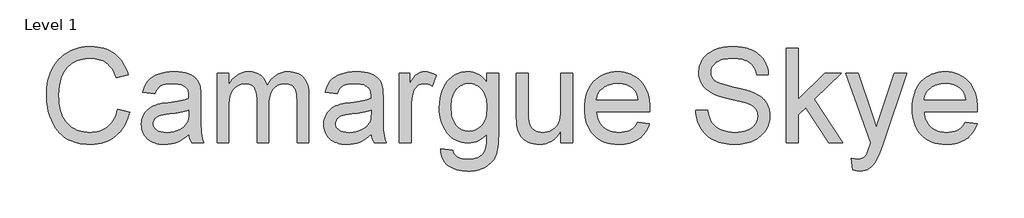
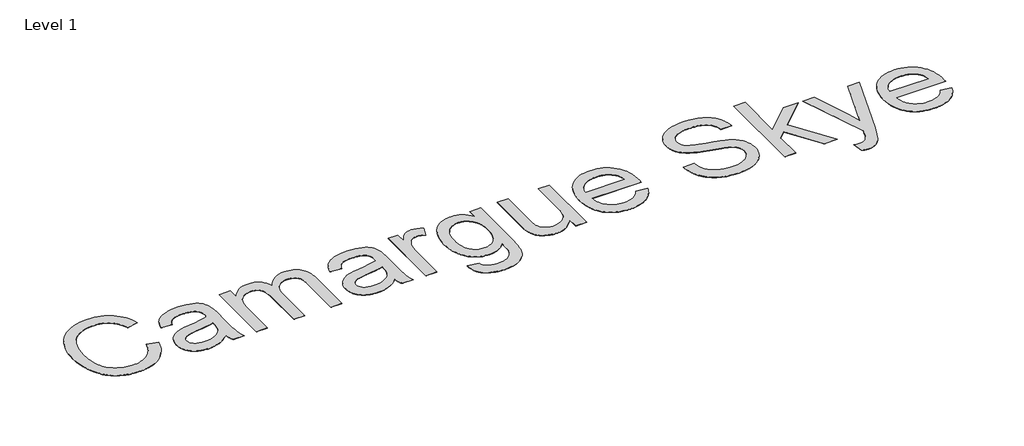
# One storey, part 52 of 69: 1 proxy.
"""IFC4 building model written with IfcOpenShell, lengths in millimetres."""

import ifcopenshell
import ifcopenshell.guid

model = None  # the IFC model being written
_history = None  # IfcOwnerHistory: only IFC2X3 demands one
_inside = {}  # id of a spatial element -> (the spatial element, [elements in it])
_under = {}  # id of a project, library or spatial element -> (it, [spatial elements below it])
_declared = {}  # id of a project -> (the project, [libraries it declares])
_typed = {}  # id of a type object -> (the type object, [elements of that type])
_made_of = {}  # id of a material, layer set ... -> (it, [elements and type objects made of it])


def new_model(schema):
    """Start an empty IFC model of exactly this schema.

    Asked for "IFC4X3", IfcOpenShell would pick the latest addendum, in which some entities
    have other attributes; the version numbers below select the first issue.
    IFC2X3 requires an IfcOwnerHistory on every rooted entity: one is made here for all.
    """
    global model, _history
    if schema == "IFC4X3":
        model = ifcopenshell.file(schema_version=(4, 3, 0, 0))
    else:
        model = ifcopenshell.file(schema=schema)
    _inside.clear()
    _under.clear()
    _declared.clear()
    _typed.clear()
    _made_of.clear()
    _history = None
    if model.schema == "IFC2X3":
        org = make("IfcOrganization", Name="unknown")
        user = make(
            "IfcPersonAndOrganization",
            ThePerson=make("IfcPerson", FamilyName="unknown"),
            TheOrganization=org,
        )
        app = make(
            "IfcApplication",
            ApplicationDeveloper=org,
            Version="unknown",
            ApplicationFullName="unknown",
            ApplicationIdentifier="unknown",
        )
        _history = make(
            "IfcOwnerHistory",
            OwningUser=user,
            OwningApplication=app,
            ChangeAction="ADDED",
            CreationDate=0,
        )
    return model


def make(cls, **values):
    """One entity of the class cls with the attributes given. An attribute that is None is left unset."""
    return model.create_entity(
        cls, **{name: value for name, value in values.items() if value is not None}
    )


def rooted(cls, **values):
    """An entity with a GlobalId (a new one), such as an element, a storey or a relation."""
    return make(cls, GlobalId=ifcopenshell.guid.new(), OwnerHistory=_history, **values)


def si_unit(unit_type, name, prefix=None):
    """IfcSIUnit, for example si_unit("LENGTHUNIT", "METRE", prefix="MILLI")."""
    return make("IfcSIUnit", UnitType=unit_type, Prefix=prefix, Name=name)


def assignment(units):
    """IfcUnitAssignment: the units of a project."""
    return None if units is None else make("IfcUnitAssignment", Units=units)


def point(xyz):
    """IfcCartesianPoint."""
    return None if xyz is None else make("IfcCartesianPoint", Coordinates=xyz)


def direction(xyz):
    """IfcDirection."""
    return None if xyz is None else make("IfcDirection", DirectionRatios=xyz)


def frame(location, z_axis=None, x_axis=None):
    """IfcAxis2Placement3D, a coordinate frame: its origin and axes. An axis left out is left unset."""
    return make(
        "IfcAxis2Placement3D",
        Location=point(location),
        Axis=direction(z_axis),
        RefDirection=direction(x_axis),
    )


def origin():
    """The frame at (0, 0, 0) with its axes left unset."""
    return frame((0.0, 0.0, 0.0))


def origin_with_axes():
    """The frame at (0, 0, 0) with the z axis (0, 0, 1) and the x axis (1, 0, 0) written out."""
    return frame((0.0, 0.0, 0.0), z_axis=(0.0, 0.0, 1.0), x_axis=(1.0, 0.0, 0.0))


def place(relative_to, where):
    """IfcLocalPlacement: puts the frame where relative to a parent placement (None: the world)."""
    return make(
        "IfcLocalPlacement", PlacementRelTo=relative_to, RelativePlacement=where
    )


def context(
    kind, dimensions, precision=None, world=None, true_north=None, identifier=None
):
    """IfcGeometricRepresentationContext, for example the 3D "Model" context."""
    return make(
        "IfcGeometricRepresentationContext",
        ContextIdentifier=identifier,
        ContextType=kind,
        CoordinateSpaceDimension=dimensions,
        Precision=precision,
        WorldCoordinateSystem=world,
        TrueNorth=true_north,
    )


def project(units=None, contexts=None):
    """IfcProject with its units and contexts."""
    return rooted(
        "IfcProject",
        Name="project",
        RepresentationContexts=contexts,
        UnitsInContext=assignment(units),
    )


def spatial(cls, under=None, at=None, **own):
    """A site, building, storey or space (cls), placed at a placement, below another one or the project."""
    s = rooted(cls, ObjectPlacement=at, **own)
    if under is not None:
        _under.setdefault(under.id(), (under, []))[1].append(s)
    return s


def polyline(points):
    """IfcPolyline through the points."""
    return make("IfcPolyline", Points=[point(p) for p in points])


def outline(outer, holes=None, kind="AREA"):
    """IfcArbitraryClosedProfileDef: a profile drawn as a closed curve; with holes, ...WithVoids."""
    if holes is None:
        return make("IfcArbitraryClosedProfileDef", ProfileType=kind, OuterCurve=outer)
    return make(
        "IfcArbitraryProfileDefWithVoids",
        ProfileType=kind,
        OuterCurve=outer,
        InnerCurves=holes,
    )


def extrude(swept, where, along, depth):
    """IfcExtrudedAreaSolid: the profile swept, set in the frame where, extruded along a direction by depth."""
    return make(
        "IfcExtrudedAreaSolid",
        SweptArea=swept,
        Position=where,
        ExtrudedDirection=direction(along),
        Depth=depth,
    )


def shape(context_of_items, identifier, shape_type, items):
    """IfcShapeRepresentation: the items that make up one representation, for example the "Body"."""
    return make(
        "IfcShapeRepresentation",
        ContextOfItems=context_of_items,
        RepresentationIdentifier=identifier,
        RepresentationType=shape_type,
        Items=items,
    )


def made_of(thing, what):
    """Note that an element or type object is made of a material, layer set ...; save() writes the relation."""
    if what is not None:
        _made_of.setdefault(what.id(), (what, []))[1].append(thing)
    return thing


def element(
    cls,
    number,
    at=None,
    inside=None,
    cuts=None,
    type_object=None,
    material=None,
    context=None,
    identifier="Body",
    shape_type=None,
    held_by="IfcProductDefinitionShape",
    body=None,
    shapes=None,
    **own,
):
    """One element of the class cls, such as IfcWall. Its Tag is "e" and its number.

    at: its placement. inside: the storey or other place that contains it. cuts: it is an
    opening in that element (IfcRelVoidsElement). A single representation is given by context,
    identifier, shape_type and body (its items); several are given by shapes. held_by: the class
    of the entity that holds the representations. save() writes the other relations.
    """
    e = rooted(cls, Tag="e%d" % number, ObjectPlacement=at, **own)
    if body is not None:
        shapes = [shape(context, identifier, shape_type, body)]
    if shapes is not None:
        e.Representation = make(held_by, Representations=shapes)
    if inside is not None:
        _inside.setdefault(inside.id(), (inside, []))[1].append(e)
    if cuts is not None:
        rooted(
            "IfcRelVoidsElement", RelatingBuildingElement=cuts, RelatedOpeningElement=e
        )
    if type_object is not None:
        _typed.setdefault(type_object.id(), (type_object, []))[1].append(e)
    return made_of(e, material)


def aggregate(whole, parts):
    """IfcRelAggregates: a whole, such as a stair, and the parts it consists of."""
    return rooted("IfcRelAggregates", RelatingObject=whole, RelatedObjects=parts)


def save(model, path):
    """Write the relations noted so far, then the file.

    IfcRelAggregates (storeys below a building ...), IfcRelContainedInSpatialStructure (elements
    in a storey), IfcRelDefinesByType, IfcRelAssociatesMaterial and IfcRelDeclares: one each for
    every whole, place, type object, material and project.
    """
    for whole, parts in _under.values():
        aggregate(whole, parts)
    for where, things in _inside.values():
        rooted(
            "IfcRelContainedInSpatialStructure",
            RelatedElements=things,
            RelatingStructure=where,
        )
    for kind, things in _typed.values():
        rooted("IfcRelDefinesByType", RelatedObjects=things, RelatingType=kind)
    for what, things in _made_of.values():
        rooted("IfcRelAssociatesMaterial", RelatedObjects=things, RelatingMaterial=what)
    for by, libraries in _declared.values():
        rooted("IfcRelDeclares", RelatingContext=by, RelatedDefinitions=libraries)
    model.write(path)


model = new_model("IFC4")

# Units and contexts
model_context = context("Model", 3, world=origin())
ifc_project = project(units=[si_unit("LENGTHUNIT", "METRE", prefix="MILLI")], contexts=[model_context])

# Site, building, storey
site = spatial("IfcSite", under=ifc_project)
building = spatial("IfcBuilding", under=site)
storey = spatial("IfcBuildingStorey", under=building, Name="Level 1", Elevation=0.0)

# Proxy
placement = place(None, origin())
element("IfcBuildingElementProxy", 1, Name="2500 mm Arial", ObjectType="2500 mm Arial", at=placement, inside=storey, context=model_context, shape_type="SweptSolid", body=[
    extrude(outline(polyline([(84350.8598533, 78001.5614402), (84664.7858225, 77920.6274012), (84636.3037086, 77819.9340754), (84602.6674147, 77725.400857), (84563.8769408, 77637.027746), (84519.9322869, 77554.8147423), (84470.8334529, 77478.761846), (84416.5804388, 77408.869057), (84357.1732448, 77345.1363754), (84292.6118707, 77287.5638012), (84223.5956755, 77236.4770632), (84150.8240184, 77192.2018903), (84074.2968992, 77154.7382824), (83994.0143179, 77124.0862396), (83909.9762747, 77100.2457619), (83822.1827693, 77083.2168492), (83730.633802, 77072.9995016), (83635.3293726, 77069.593719), (83537.2706184, 77072.1708091), (83443.8966115, 77079.9020791), (83355.2073519, 77092.7875292), (83271.2028395, 77110.8271593), (83191.8830744, 77134.0209695), (83117.2480566, 77162.3689597), (83047.2977861, 77195.8711299), (82982.0322629, 77234.5274802), (82920.9868443, 77278.0697632), (82863.6968877, 77326.2297317), (82810.1623932, 77379.0073857), (82760.3833608, 77436.4027251), (82714.3597903, 77498.4157499), (82672.0916819, 77565.0464603), (82633.5790356, 77636.294856), (82598.8218512, 77712.1609373), (82567.9973637, 77791.0543808), (82541.2828079, 77871.3848633), (82518.6781838, 77953.1523849), (82500.1834913, 78036.3569455), (82485.7987304, 78120.9985452), (82475.5239013, 78207.0771839), (82469.3590038, 78294.5928617), (82467.3040379, 78383.5455785), (82469.6272511, 78479.7792931), (82476.5968904, 78572.8898429), (82488.212956, 78662.8772278), (82504.4754479, 78749.7414479), (82525.384366, 78833.4825031), (82550.9397103, 78914.1003934), (82581.1414809, 78991.5951189), (82615.9896777, 79065.9666795), (82655.1202508, 79136.5875683), (82698.1691504, 79202.8302781), (82745.1363765, 79264.6948089), (82796.0219291, 79322.1811608), (82850.825808, 79375.2893337), (82909.5480135, 79424.0193277), (82972.1885454, 79468.3711427), (83038.7474038, 79508.3447787), (83108.1276488, 79543.7677912), (83179.2323407, 79574.4677353), (83252.0614794, 79600.4446111), (83326.615065, 79621.6984185), (83402.8930975, 79638.2291576), (83480.8955767, 79650.0368284), (83560.6225029, 79657.1214309), (83642.0738759, 79659.4829651), (83733.7138557, 79656.4268621), (83821.6271143, 79647.258553), (83905.8136516, 79631.9780378), (83986.2734676, 79610.5853166), (84063.0065624, 79583.0803893), (84136.012936, 79549.4632559), (84205.2925883, 79509.7339165), (84270.8455193, 79463.892371), (84332.116074, 79412.5038548), (84388.5485972, 79356.1336032), (84440.143089, 79294.7816163), (84486.8995494, 79228.4478941), (84528.8179783, 79157.1324365), (84565.8983757, 79080.8352435), (84598.1407418, 78999.5563152), (84625.5450763, 78913.2956515), (84311.6191071, 78838.4929792), (84288.1474694, 78902.4651673), (84262.184964, 78961.9442133), (84233.7315909, 79016.9301172), (84202.7873502, 79067.4228791), (84169.3522418, 79113.4224989), (84133.4262657, 79154.9289766), (84095.0094219, 79191.9423122), (84054.1017105, 79224.4625058), (84010.5881682, 79252.8440269), (83964.3538321, 79277.4413452), (83915.398702, 79298.2544607), (83863.722778, 79315.2833734), (83809.32606, 79328.5280832), (83752.2085482, 79337.9885902), (83692.3702424, 79343.6648945), (83629.8111427, 79345.5569959), (83557.8921287, 79343.4589189), (83488.9813164, 79337.1646879), (83423.0787059, 79326.6743028), (83360.1842971, 79311.9877638), (83300.29809, 79293.1050708), (83243.4200846, 79270.0262237), (83189.550281, 79242.7512227), (83138.6886791, 79211.2800676), (83091.165798, 79176.2737965), (83047.3121565, 79138.3934473), (83007.1277547, 79097.6390201), (82970.6125926, 79054.0105147), (82937.7666702, 79007.5079312), (82908.5899875, 78958.1312697), (82883.0825444, 78905.8805301), (82861.2443411, 78850.7557124), (82826.23807, 78736.7506149), (82801.2335907, 78620.9827495), (82786.230903, 78503.4521163), (82781.2300072, 78384.1587151), (82787.150608, 78234.2468021), (82794.5513591, 78162.9696655), (82804.9124106, 78094.1450756), (82818.2337625, 78027.7730323), (82834.5154149, 77963.8535357), (82853.7573677, 77902.3865856), (82875.9596209, 77843.3721822), (82901.2898291, 77787.4090917), (82929.9156469, 77735.0960804), (82961.8370742, 77686.4331483), (82997.054111, 77641.4202953), (83035.5667574, 77600.0575215), (83077.3750133, 77562.3448269), (83122.4788787, 77528.2822114), (83170.8783537, 77497.8696751), (83221.4381774, 77471.0688969), (83273.0230889, 77447.8415559), (83325.6330883, 77428.1876519), (83379.2681756, 77412.107185), (83433.9283507, 77399.6001552), (83489.6136136, 77390.6665624), (83546.3239644, 77385.3064068), (83604.059403, 77383.5196883), (83673.6647842, 77385.9530744), (83740.5397911, 77393.2532327), (83804.6844239, 77405.4201633), (83866.0986825, 77422.4538661), (83924.7825669, 77444.3543411), (83980.7360772, 77471.1215884), (84033.9592132, 77502.7556078), (84084.4519751, 77539.2563996), (84131.6012261, 77580.5473214), (84174.7938296, 77626.5517313), (84214.0297856, 77677.2696293), (84249.3090942, 77732.7010154), (84280.6317552, 77792.8458895), (84307.9977687, 77857.7042516), (84331.4071347, 77927.2761019), (84350.8598533, 78001.5614402)])), origin_with_axes(), (0.0, 0.0, 1.0), 5.0),
    extrude(outline(polyline([(86234.4156686, 77344.2789421), (86159.9770461, 77274.4196841), (86084.4271134, 77215.673528), (86007.7658706, 77168.0404738), (85929.9933175, 77131.5205216), (85850.2280704, 77104.4275455), (85767.5887451, 77085.0754197), (85682.0753417, 77073.4641442), (85593.6878603, 77069.593719), (85521.649093, 77071.9217223), (85453.9118626, 77078.9057321), (85390.4761691, 77090.5457483), (85331.3420125, 77106.8417711), (85276.5093927, 77127.7938003), (85225.9783098, 77153.4018361), (85179.7487638, 77183.6658783), (85137.8207546, 77218.5859271), (85100.5295914, 77257.1273142), (85068.2105833, 77298.2553717), (85040.8637303, 77341.9700994), (85018.4890324, 77388.2714974), (85001.0864896, 77437.1595656), (84988.6561019, 77488.6343042), (84981.1978692, 77542.695713), (84978.7117917, 77599.3437921), (84982.4672537, 77665.9074406), (84993.7336398, 77729.4820479), (85012.51095, 77790.067614), (85038.7991842, 77847.6641388), (85071.1996245, 77901.0070281), (85108.3135529, 77948.8316875), (85150.1409693, 77991.138117), (85196.6818738, 78027.9263165), (85247.0932035, 78059.8860648), (85300.5318954, 78087.7071407), (85356.9979495, 78111.3895441), (85416.4913659, 78130.9332751), (85529.4617953, 78154.998889), (85688.1109057, 78178.1447978), (85860.7855172, 78201.9038434), (86009.0879465, 78227.8088672), (86133.0181936, 78255.8598693), (86232.5762586, 78286.0568498), (86234.4156686, 78355.9544289), (86229.0124018, 78432.0600166), (86222.2583182, 78465.5717671), (86212.8026013, 78496.0561553), (86200.645251, 78523.5131813), (86185.7862673, 78547.9428451), (86168.2256502, 78569.3451466), (86147.9633997, 78587.7200858), (86117.05748, 78608.9882637), (86082.5877035, 78627.4206845), (86044.5540701, 78643.0173482), (86002.9565799, 78655.7782549), (85957.7952329, 78665.7034046), (85909.0700291, 78672.7927972), (85800.9280509, 78678.4643113), (85700.3736389, 78674.6896887), (85613.92137, 78663.3658211), (85541.5712443, 78644.4927083), (85510.6844851, 78632.225185), (85483.3232617, 78618.0703504), (85458.5582889, 78601.5108705), (85435.4602813, 78582.0294112), (85394.2651621, 78534.3005544), (85359.737904, 78474.8837801), (85331.8785071, 78403.7790882), (85017.9525378, 78443.0198344), (85041.845707, 78533.4574915), (85072.4450584, 78614.6980988), (85109.7505919, 78686.7416562), (85153.7623077, 78749.5881637), (85206.3770972, 78804.5022157), (85269.491852, 78852.7484065), (85343.1065721, 78894.3267362), (85427.2212575, 78929.2372047), (85520.1306218, 78956.8666753), (85620.1293787, 78976.6020115), (85727.2175282, 78988.4432133), (85841.3950704, 78992.3902805), (85953.0051028, 78988.9030658), (86053.6169963, 78978.4414215), (86143.2307511, 78961.0053478), (86221.8463671, 78936.5948446), (86290.1153019, 78906.9151982), (86348.6890133, 78873.671695), (86397.5675013, 78836.8643349), (86436.7507659, 78796.4931181), (86468.518909, 78751.5616973), (86495.1520326, 78701.0737256), (86516.6501367, 78645.0292029), (86533.0132213, 78583.4281292), (86539.7194035, 78536.3698907), (86544.5095337, 78474.9029406), (86548.3416378, 78308.7429061), (86548.3416378, 77918.1748546), (86552.3270261, 77577.9606511), (86557.3087614, 77458.4948053), (86564.2831909, 77372.7897967), (86574.1700195, 77304.6741461), (86587.8889523, 77237.9763739), (86605.4399891, 77172.6964803), (86626.8231301, 77108.8344652), (86312.8971609, 77108.8344652), (86284.9994429, 77161.2576495), (86262.6199549, 77217.9727904), (86245.7586967, 77278.979888), (86234.4156686, 77344.2789421)]), holes=[polyline([(86234.4156686, 77972.1308805), (86139.5327706, 77944.9612624), (86023.496658, 77919.8609804), (85886.3073306, 77896.8300347), (85727.9647885, 77875.8684251), (85565.1003636, 77851.8028113), (85504.533958, 77838.7353363), (85457.8780904, 77824.9780825), (85420.4575937, 77809.2281346), (85387.5973009, 77790.1825771), (85359.297212, 77767.8414101), (85335.557327, 77742.2046336), (85316.7800168, 77714.1919525), (85303.3676524, 77684.7230718), (85295.3202338, 77653.7979916), (85292.6377609, 77621.4167118), (85298.4817197, 77572.6340264), (85316.013596, 77528.0666555), (85345.2333899, 77487.7145992), (85386.1411013, 77451.5778574), (85410.8821235, 77435.626724), (85438.3535199, 77421.8024084), (85501.4874352, 77400.5342305), (85575.5428473, 77387.7733238), (85660.5197561, 77383.5196883), (85747.2785933, 77388.2140158), (85829.1323372, 77402.2969984), (85906.0809879, 77425.7686362), (85978.1245453, 77458.6289289), (86043.1170311, 77498.1570829), (86098.912467, 77541.6323041), (86145.5108531, 77589.0545926), (86182.9121892, 77640.4239482), (86204.6402196, 77686.4091976), (86220.1602412, 77742.2046336), (86229.4722542, 77807.810256), (86232.5762586, 77883.226065), (86234.4156686, 77972.1308805)])]), origin_with_axes(), (0.0, 0.0, 1.0), 5.0),
    extrude(outline(polyline([(86979.9898454, 77108.8344652), (86979.9898454, 78953.1495344), (87293.9158147, 78953.1495344), (87293.9158147, 78649.6468883), (87337.7550858, 78723.1274848), (87388.3388601, 78789.0588361), (87445.6671377, 78847.4409423), (87509.7399185, 78898.2738034), (87579.5225345, 78939.4497621), (87653.9803174, 78968.8611612), (87733.1132674, 78986.5080007), (87816.9213845, 78992.3902805), (87908.5469939, 78986.3930376), (87951.1120904, 78978.8964839), (87991.512048, 78968.4013087), (88029.7468668, 78954.9075121), (88065.8165468, 78938.415094), (88099.721088, 78918.9240545), (88131.4604904, 78896.4343934), (88160.9868526, 78871.243099), (88188.2522734, 78843.6471592), (88213.2567527, 78813.6465741), (88236.0002906, 78781.2413437), (88274.7045422, 78709.2169468), (88304.3650281, 78627.5739686), (88359.5664879, 78713.0777917), (88418.791657, 78787.1811051), (88482.0405354, 78849.8839087), (88549.3131232, 78901.1862025), (88620.6094203, 78941.0879866), (88695.9294267, 78969.589261), (88775.2731424, 78986.6900256), (88858.6405675, 78992.3902805), (88923.3983369, 78990.0191661), (88984.314422, 78982.9058228), (89041.3888227, 78971.0502507), (89094.621539, 78954.4524498), (89144.0125709, 78933.11242), (89189.5619185, 78907.0301613), (89231.2695816, 78876.2056738), (89269.1355604, 78840.6389575), (89302.834126, 78800.1384071), (89332.0395495, 78754.5124175), (89356.7518309, 78703.7609886), (89376.9709703, 78647.8841204), (89392.6969675, 78586.881813), (89403.9298227, 78520.7540664), (89410.6695358, 78449.5008805), (89412.9161069, 78373.1222553), (89412.9161069, 77108.8344652), (89098.9901377, 77108.8344652), (89098.9901377, 78238.2321904), (89097.1698882, 78322.9025308), (89091.7091398, 78394.8119646), (89082.6078926, 78453.9604916), (89069.8661464, 78500.348112), (89052.3534306, 78538.4200664), (89028.9392744, 78572.6215956), (88999.6236779, 78602.9526997), (88964.4066411, 78629.4133786), (88924.5719188, 78650.8731617), (88881.4032659, 78666.2015781), (88834.9006825, 78675.398628), (88785.0641684, 78678.4643113), (88739.6010432, 78676.5003579), (88696.1018714, 78670.6084979), (88654.5666529, 78660.7887311), (88614.9953878, 78647.0410575), (88577.388076, 78629.3654773), (88541.7447176, 78607.7619903), (88508.0653125, 78582.2305967), (88476.3498608, 78552.7712963), (88447.537228, 78518.9817182), (88422.5662796, 78480.4594916), (88401.4370155, 78437.2046164), (88384.1494358, 78389.2170926), (88370.7035405, 78336.4969202), (88361.0993295, 78279.0440992), (88355.336803, 78216.8586297), (88353.4159608, 78149.9405116), (88353.4159608, 77108.8344652), (88039.4899916, 77108.8344652), (88039.4899916, 78273.1809799), (88034.9489482, 78368.2938041), (88021.325818, 78450.6840426), (87998.6206012, 78520.3516954), (87983.8622102, 78550.4145522), (87966.8332975, 78577.2967626), (87947.2177146, 78601.0079068), (87924.6993128, 78621.5575652), (87899.2780921, 78638.9457376), (87870.9540525, 78653.1724241), (87839.7271941, 78664.2376248), (87805.5975168, 78672.1413395), (87768.5650207, 78676.8835683), (87728.6297056, 78678.4643113), (87666.9711504, 78674.2489968), (87607.6884997, 78661.6030532), (87550.7817536, 78640.5264805), (87496.250912, 78611.0192788), (87446.5868427, 78573.3880164), (87404.2804132, 78527.9392616), (87369.3316237, 78474.6730144), (87341.740474, 78413.5892748), (87320.8171856, 78341.4307542), (87305.8719795, 78254.9401643), (87296.9048559, 78154.117505), (87293.9158147, 78038.9627763), (87293.9158147, 77108.8344652), (86979.9898454, 77108.8344652)])), origin_with_axes(), (0.0, 0.0, 1.0), 5.0),
    extrude(outline(polyline([(91061.0274453, 77344.2789421), (90986.5888228, 77274.4196841), (90911.0388902, 77215.673528), (90834.3776473, 77168.0404738), (90756.6050943, 77131.5205216), (90676.8398471, 77104.4275455), (90594.2005218, 77085.0754197), (90508.6871185, 77073.4641442), (90420.299637, 77069.593719), (90348.2608698, 77071.9217223), (90280.5236394, 77078.9057321), (90217.0879458, 77090.5457483), (90157.9537892, 77106.8417711), (90103.1211694, 77127.7938003), (90052.5900865, 77153.4018361), (90006.3605405, 77183.6658783), (89964.4325313, 77218.5859271), (89927.1413681, 77257.1273142), (89894.82236, 77298.2553717), (89867.475507, 77341.9700994), (89845.1008091, 77388.2714974), (89827.6982663, 77437.1595656), (89815.2678786, 77488.6343042), (89807.809646, 77542.695713), (89805.3235684, 77599.3437921), (89809.0790304, 77665.9074406), (89820.3454165, 77729.4820479), (89839.1227267, 77790.067614), (89865.410961, 77847.6641388), (89897.8114013, 77901.0070281), (89934.9253296, 77948.8316875), (89976.7527461, 77991.138117), (90023.2936505, 78027.9263165), (90073.7049802, 78059.8860648), (90127.1436721, 78087.7071407), (90183.6097263, 78111.3895441), (90243.1031427, 78130.9332751), (90356.073572, 78154.998889), (90514.7226824, 78178.1447978), (90687.3972939, 78201.9038434), (90835.6997232, 78227.8088672), (90959.6299704, 78255.8598693), (91059.1880353, 78286.0568498), (91061.0274453, 78355.9544289), (91055.6241785, 78432.0600166), (91048.870095, 78465.5717671), (91039.4143781, 78496.0561553), (91027.2570278, 78523.5131813), (91012.398044, 78547.9428451), (90994.8374269, 78569.3451466), (90974.5751764, 78587.7200858), (90943.6692567, 78608.9882637), (90909.1994802, 78627.4206845), (90871.1658468, 78643.0173482), (90829.5683566, 78655.7782549), (90784.4070096, 78665.7034046), (90735.6818058, 78672.7927972), (90627.5398276, 78678.4643113), (90526.9854156, 78674.6896887), (90440.5331467, 78663.3658211), (90368.183021, 78644.4927083), (90337.2962618, 78632.225185), (90309.9350385, 78618.0703504), (90285.1700656, 78601.5108705), (90262.072058, 78582.0294112), (90220.8769388, 78534.3005544), (90186.3496807, 78474.8837801), (90158.4902838, 78403.7790882), (89844.5643146, 78443.0198344), (89868.4574837, 78533.4574915), (89899.0568351, 78614.6980988), (89936.3623687, 78686.7416562), (89980.3740844, 78749.5881637), (90032.988874, 78804.5022157), (90096.1036288, 78852.7484065), (90169.7183488, 78894.3267362), (90253.8330342, 78929.2372047), (90346.7423985, 78956.8666753), (90446.7411554, 78976.6020115), (90553.8293049, 78988.4432133), (90668.0068471, 78992.3902805), (90779.6168795, 78988.9030658), (90880.2287731, 78978.4414215), (90969.8425278, 78961.0053478), (91048.4581438, 78936.5948446), (91116.7270786, 78906.9151982), (91175.30079, 78873.671695), (91224.179278, 78836.8643349), (91263.3625426, 78796.4931181), (91295.1306857, 78751.5616973), (91321.7638094, 78701.0737256), (91343.2619135, 78645.0292029), (91359.624998, 78583.4281292), (91366.3311802, 78536.3698907), (91371.1213104, 78474.9029406), (91374.9534145, 78308.7429061), (91374.9534145, 77918.1748546), (91378.9388028, 77577.9606511), (91383.9205381, 77458.4948053), (91390.8949676, 77372.7897967), (91400.7817962, 77304.6741461), (91414.500729, 77237.9763739), (91432.0517658, 77172.6964803), (91453.4349068, 77108.8344652), (91139.5089376, 77108.8344652), (91111.6112196, 77161.2576495), (91089.2317316, 77217.9727904), (91072.3704735, 77278.979888), (91061.0274453, 77344.2789421)]), holes=[polyline([(91061.0274453, 77972.1308805), (90966.1445474, 77944.9612624), (90850.1084347, 77919.8609804), (90712.9191073, 77896.8300347), (90554.5765652, 77875.8684251), (90391.7121403, 77851.8028113), (90331.1457347, 77838.7353363), (90284.4898671, 77824.9780825), (90247.0693704, 77809.2281346), (90214.2090776, 77790.1825771), (90185.9089887, 77767.8414101), (90162.1691037, 77742.2046336), (90143.3917936, 77714.1919525), (90129.9794291, 77684.7230718), (90121.9320105, 77653.7979916), (90119.2495376, 77621.4167118), (90125.0934964, 77572.6340264), (90142.6253727, 77528.0666555), (90171.8451666, 77487.7145992), (90212.7528781, 77451.5778574), (90237.4939003, 77435.626724), (90264.9652967, 77421.8024084), (90328.099212, 77400.5342305), (90402.154624, 77387.7733238), (90487.1315328, 77383.5196883), (90573.89037, 77388.2140158), (90655.7441139, 77402.2969984), (90732.6927646, 77425.7686362), (90804.736322, 77458.6289289), (90869.7288078, 77498.1570829), (90925.5242437, 77541.6323041), (90972.1226298, 77589.0545926), (91009.523966, 77640.4239482), (91031.2519963, 77686.4091976), (91046.772018, 77742.2046336), (91056.084031, 77807.810256), (91059.1880353, 77883.226065), (91061.0274453, 77972.1308805)])]), origin_with_axes(), (0.0, 0.0, 1.0), 5.0),
    extrude(outline(polyline([(91806.6016222, 77108.8344652), (91806.6016222, 78953.1495344), (92081.2868452, 78953.1495344), (92081.2868452, 78680.3037213), (92133.0202508, 78767.522411), (92182.7609622, 78838.4929792), (92230.5089795, 78893.215426), (92276.2643027, 78931.6897513), (92322.0962679, 78958.2462328), (92370.0742114, 78977.2151482), (92420.1981333, 78988.5964974), (92472.4680334, 78992.3902805), (92550.3363891, 78986.335556), (92628.8178814, 78968.1713825), (92707.9125104, 78937.89776), (92787.620276, 78895.5146884), (92682.7739073, 78614.0849621), (92627.5916081, 78642.2509274), (92572.4093088, 78662.369474), (92517.2270095, 78674.440602), (92462.0447102, 78678.4643113), (92413.9326431, 78674.5938861), (92368.3114436, 78662.9826107), (92325.1811117, 78643.6304849), (92284.5416476, 78616.5375088), (92247.9258927, 78582.5850663), (92216.8666889, 78542.6545414), (92191.364036, 78496.7459341), (92171.4179341, 78444.8592444), (92149.1534091, 78359.1733963), (92133.2501771, 78269.50216), (92123.7082378, 78175.8455354), (92120.5275914, 78078.2035225), (92120.5275914, 77108.8344652), (91806.6016222, 77108.8344652)])), origin_with_axes(), (0.0, 0.0, 1.0), 5.0),
    extrude(outline(polyline([(92905.3425144, 76951.8714806), (93219.2684836, 76912.6307344), (93232.5275639, 76859.7476976), (93253.9107049, 76814.5288691), (93283.4179066, 76776.9742487), (93321.049169, 76747.0838366), (93381.9413034, 76716.5036458), (93453.0268347, 76694.6606523), (93534.3057631, 76681.5548562), (93625.7780883, 76677.1862575), (93723.8033116, 76682.1296718), (93810.0256542, 76696.9599148), (93848.7107453, 76708.082597), (93884.4451162, 76721.6769863), (93917.2287669, 76737.7430828), (93947.0616974, 76756.2808865), (93999.1783134, 76799.8135893), (94042.0978795, 76851.3170686), (94075.8203958, 76910.7913245), (94100.3458621, 76978.2363569), (94110.4242959, 77033.7635456), (94117.3604044, 77113.279706), (94121.1541874, 77216.7848382), (94121.8056451, 77344.2789421), (94071.0877472, 77289.0966428), (94017.3424869, 77241.2719835), (93960.5698644, 77200.804964), (93900.7698797, 77167.6955844), (93837.9425327, 77141.9438448), (93772.0878235, 77123.549745), (93703.205752, 77112.5132852), (93631.2963182, 77108.8344652), (93542.6645402, 77113.1168416), (93459.1773619, 77125.9639706), (93380.8347833, 77147.3758524), (93307.6368046, 77177.3524868), (93239.5834256, 77215.893874), (93176.6746464, 77263.0000138), (93118.910467, 77318.6709064), (93066.2908873, 77382.9065516), (93019.3715625, 77453.1298595), (92978.7081477, 77526.7637401), (92944.3006429, 77603.8081934), (92916.149048, 77684.2632193), (92894.2533631, 77768.1288179), (92878.6135882, 77855.4049892), (92869.2297233, 77946.0917331), (92866.1017683, 78040.1890497), (92871.7158008, 78169.465082), (92888.5578984, 78293.6444159), (92916.6280611, 78412.7270513), (92955.9262888, 78526.7129883), (92979.637433, 78580.8462491), (93005.8586054, 78631.8084437), (93034.589806, 78679.5995721), (93065.8310348, 78724.2196344), (93099.5822918, 78765.6686306), (93135.843577, 78803.9465606), (93174.6148904, 78839.0534244), (93215.896232, 78870.9892221), (93259.3666631, 78899.4425952), (93304.7052449, 78924.1021852), (93351.9119775, 78944.9679921), (93400.9868608, 78962.0400159), (93451.9298949, 78975.3182567), (93504.7410798, 78984.8027144), (93559.4204154, 78990.493389), (93615.9679018, 78992.3902805), (93691.0675622, 78988.0983239), (93762.7758105, 78975.2224541), (93831.0926466, 78953.762671), (93896.0180706, 78923.7189747), (93957.5520825, 78885.0913652), (94015.6946822, 78837.8798425), (94070.4458697, 78782.0844066), (94121.8056451, 78717.7050574), (94121.8056451, 78953.1495344), (94435.7316144, 78953.1495344), (94435.7316144, 77360.8336319), (94430.3666686, 77161.3151311), (94423.6604864, 77073.3252304), (94414.2718313, 76993.181563), (94402.2007033, 76920.8841287), (94387.4471025, 76856.4329276), (94370.0110288, 76799.8279596), (94349.8924822, 76751.0692249), (94326.8663265, 76707.4071886), (94300.7074258, 76666.0923161), (94271.41578, 76627.1246074), (94238.991389, 76590.5040624), (94203.434253, 76556.2306812), (94164.7443718, 76524.3044638), (94122.9217455, 76494.7254102), (94077.9663741, 76467.4935203), (94030.0986035, 76443.0638565), (93979.5387798, 76421.8914813), (93926.286903, 76403.9763945), (93870.342973, 76389.3185963), (93811.7069899, 76377.9180866), (93750.3789537, 76369.7748653), (93686.3588643, 76364.8889326), (93619.6467217, 76363.2602883), (93540.8059697, 76365.5547606), (93465.845223, 76372.4381777), (93394.7644818, 76383.9105394), (93327.563746, 76399.9718457), (93264.2430156, 76420.6220968), (93204.8022906, 76445.8612925), (93149.241571, 76475.689433), (93097.5608569, 76510.1065181), (93051.0343228, 76549.1317083), (93010.9361434, 76592.7841644), (92977.2663186, 76641.0638861), (92950.0248484, 76693.9708736), (92929.2117329, 76751.5051267), (92914.8269721, 76813.6666456), (92906.8705659, 76880.4554303), (92905.3425144, 76951.8714806)]), holes=[polyline([(93180.0277375, 78061.6488327), (93182.1210244, 77981.2273377), (93188.400885, 77906.4294555), (93198.8673194, 77837.255186), (93213.5203275, 77773.7045294), (93232.3599093, 77715.7774856), (93255.3860649, 77663.4740545), (93282.5987943, 77616.7942362), (93313.9980974, 77575.7380307), (93348.5588864, 77539.8839066), (93385.2560734, 77508.8103324), (93424.0896585, 77482.517308), (93465.0596417, 77461.0048335), (93508.1660229, 77444.2729089), (93553.4088021, 77432.3215342), (93600.7879793, 77425.1507094), (93650.3035547, 77422.7604344), (93699.2730551, 77425.136339), (93746.2402812, 77432.2640526), (93791.2052329, 77444.1435754), (93834.1679102, 77460.7749073), (93875.128313, 77482.1580482), (93914.0864415, 77508.2929983), (93951.0422956, 77539.1797575), (93985.9958753, 77574.8183258), (94017.8262901, 77615.5440123), (94045.4126496, 77661.6921261), (94068.7549538, 77713.2626672), (94087.8532027, 77770.2556357), (94102.7073963, 77832.6710315), (94113.3175345, 77900.5088546), (94119.6836175, 77973.7691051), (94121.8056451, 78052.4517828), (94119.6213458, 78127.6328755), (94113.0684478, 78198.0525787), (94102.146951, 78263.7108926), (94086.8568556, 78324.6078172), (94067.1981615, 78380.7433524), (94043.1708687, 78432.1174982), (94014.7749772, 78478.7302546), (93982.010487, 78520.5816217), (93946.1707332, 78557.5853771), (93908.5490511, 78589.6552984), (93869.1454405, 78616.7913857), (93827.9599015, 78638.9936389), (93784.9924341, 78656.2620581), (93740.2430383, 78668.5966432), (93693.711714, 78675.9973943), (93645.3984614, 78678.4643113), (93597.866, 78676.0357153), (93552.1442077, 78668.7499274), (93508.2330847, 78656.6069474), (93466.1326308, 78639.6067755), (93425.8428462, 78617.7494117), (93387.3637307, 78591.0348559), (93350.6952844, 78559.4631081), (93315.8375074, 78523.0341683), (93284.0070926, 78481.8246787), (93256.4207331, 78435.9112812), (93233.0784289, 78385.293976), (93213.98018, 78329.9727629), (93199.1259864, 78269.9476421), (93188.5158481, 78205.2186134), (93182.1497651, 78135.785677), (93180.0277375, 78061.6488327)])]), origin_with_axes(), (0.0, 0.0, 1.0), 5.0),
    extrude(outline(polyline([(96083.8429528, 77108.8344652), (96083.8429528, 77425.8261177), (96029.3887533, 77342.3341493), (95970.2593867, 77269.9744433), (95906.4548532, 77208.7469998), (95837.9751526, 77158.6518187), (95764.8202851, 77119.6889001), (95686.9902505, 77091.858244), (95604.4850488, 77075.1598503), (95517.3046802, 77069.593719), (95439.5321271, 77073.5024652), (95364.4037259, 77085.2287038), (95291.9194766, 77104.7724348), (95222.0793791, 77132.1336582), (95157.9682772, 77165.396322), (95102.6710148, 77202.644374), (95056.1875919, 77243.8778143), (95018.5180084, 77289.0966428), (94987.7270518, 77338.9523174), (94961.8795095, 77394.0962956), (94940.9753816, 77454.5285775), (94925.0146679, 77520.2491631), (94916.9672493, 77572.9789158), (94911.2190931, 77639.1976749), (94906.6205682, 77812.1022126), (94906.6205682, 78953.1495344), (95220.5465374, 78953.1495344), (95220.5465374, 77959.8681474), (95225.2983465, 77761.21187), (95231.2381079, 77690.8544384), (95239.5537738, 77639.8108116), (95258.3502445, 77583.2297943), (95285.309097, 77533.0483909), (95320.4303312, 77489.2666014), (95363.7139472, 77451.8844257), (95413.8570296, 77421.9748531), (95469.5566629, 77400.6108726), (95530.8128472, 77387.7924844), (95597.6255825, 77383.5196883), (95666.4310119, 77387.888287), (95733.0521419, 77400.994083), (95797.4889727, 77422.8370765), (95859.741504, 77453.4172674), (95916.4374844, 77491.5275428), (95964.2046622, 77535.96079), (96003.0430375, 77586.717009), (96032.9526101, 77643.7961999), (96055.217135, 77710.8388614), (96071.1203671, 77791.4854925), (96080.6623063, 77885.7360932), (96083.8429528, 77993.5906636), (96083.8429528, 78953.1495344), (96397.768922, 78953.1495344), (96397.768922, 77108.8344652), (96083.8429528, 77108.8344652)])), origin_with_axes(), (0.0, 0.0, 1.0), 5.0),
    extrude(outline(polyline([(98120.6829327, 77658.2049113), (98428.4775354, 77618.9641652), (98406.9459003, 77555.4949408), (98381.2851732, 77495.6853758), (98351.4953538, 77439.5354702), (98317.5764422, 77387.0452241), (98279.5284385, 77338.2146374), (98237.3513425, 77293.0437101), (98191.0451544, 77251.5324422), (98140.6098741, 77213.6808338), (98086.2945884, 77179.9104163), (98028.348384, 77150.6427211), (97966.771261, 77125.8777483), (97901.5632193, 77105.6154977), (97832.724259, 77089.8559696), (97760.25438, 77078.5991637), (97684.1535824, 77071.8450802), (97604.4218662, 77069.593719), (97504.3752079, 77073.4785146), (97409.6360139, 77085.1329012), (97320.2042841, 77104.556879), (97236.0800185, 77131.7504478), (97157.2632171, 77166.7136078), (97083.7538799, 77209.4463588), (97015.5520068, 77259.9487009), (96952.657598, 77318.2206341), (96896.1819636, 77383.5053179), (96847.2364138, 77455.0459116), (96805.8209486, 77532.8424153), (96771.9355679, 77616.894829), (96745.5802718, 77707.2031526), (96726.7550604, 77803.7673862), (96715.4599335, 77906.5875298), (96711.6948912, 78015.6635833), (96715.4982545, 78128.4519877), (96726.9083445, 78234.7449756), (96745.9251612, 78334.5425471), (96772.5487046, 78427.8447021), (96806.7789746, 78514.6514406), (96848.6159713, 78594.9627626), (96898.0596946, 78668.7786681), (96955.1101447, 78736.0991572), (97018.2248995, 78796.1673892), (97085.8615371, 78848.2265236), (97158.0200576, 78892.2765605), (97234.700461, 78928.3174997), (97315.9027472, 78956.3493413), (97401.6269163, 78976.3720853), (97491.8729683, 78988.3857317), (97586.6409031, 78992.3902805), (97678.3096236, 78988.395312), (97765.6959679, 78976.4104063), (97848.7999358, 78956.4355636), (97927.6215273, 78928.4707838), (98002.1607425, 78892.516067), (98072.4175814, 78848.571413), (98138.3920439, 78796.636822), (98200.08413, 78736.7122939), (98255.9130969, 78669.545089), (98304.2982015, 78595.8824676), (98345.2394438, 78515.7244297), (98378.7368239, 78429.0709754), (98404.7903418, 78335.9221046), (98423.3999974, 78236.2778173), (98434.5657908, 78130.1381135), (98438.2877219, 78017.5029933), (98436.4483119, 77932.8901344), (97025.6208604, 77932.8901344), (97032.4659564, 77868.3095998), (97043.8041944, 77807.6186508), (97059.6355746, 77750.8172876), (97079.9600968, 77697.90551), (97104.7777611, 77648.8833181), (97134.0885674, 77603.7507118), (97167.8925159, 77562.5076913), (97206.1896064, 77525.1542564), (97247.9834919, 77491.9586545), (97292.2778254, 77463.1891328), (97339.0726067, 77438.8456914), (97388.3678361, 77418.9283303), (97440.1635133, 77403.4370494), (97494.4596385, 77392.3718488), (97551.2562117, 77385.7327284), (97610.5532327, 77383.5196883), (97697.388712, 77387.6200397), (97777.6329722, 77399.9210939), (97851.2860133, 77420.4228509), (97918.3478354, 77449.1253107), (97978.8184383, 77486.7948942), (98032.6978222, 77534.1980221), (98079.985987, 77591.3346945), (98120.6829327, 77658.2049113)]), holes=[polyline([(97025.6208604, 78246.8161036), (98124.3617527, 78246.8161036), (98108.2285943, 78335.644277), (98096.3394913, 78375.6322835), (98081.9020391, 78412.6695698), (98064.9162376, 78446.7561359), (98045.3820868, 78477.8919818), (98023.2995869, 78506.0771076), (97998.6687377, 78531.3115132), (97957.3394948, 78565.8004503), (97913.0595317, 78595.6908624), (97865.8288485, 78620.9827495), (97815.6474451, 78641.6761118), (97762.5153215, 78657.7709491), (97706.4324777, 78669.2672614), (97647.3989138, 78676.1650488), (97585.4146297, 78678.4643113), (97529.0779091, 78676.6296914), (97475.0308707, 78671.1258319), (97423.2735144, 78661.9527327), (97373.8058404, 78649.1103938), (97326.6278486, 78632.5988151), (97281.739539, 78612.4179968), (97239.1409116, 78588.5679388), (97198.8319665, 78561.0486412), (97161.8569519, 78530.4540799), (97129.2601162, 78497.3782313), (97101.0414596, 78461.8210952), (97077.2009818, 78423.7826717), (97057.738683, 78383.2629608), (97042.6545632, 78340.2619625), (97031.9486223, 78294.7796768), (97025.6208604, 78246.8161036)])]), origin_with_axes(), (0.0, 0.0, 1.0), 5.0),
    extrude(outline(polyline([(99654.7508526, 77972.1308805), (99968.6768218, 77972.1308805), (99983.0472123, 77880.7543579), (100004.6986005, 77797.9234274), (100033.6309866, 77723.6380891), (100069.8443705, 77657.898343), (100115.1781622, 77599.3821131), (100171.4717717, 77546.7673236), (100238.7251989, 77500.0539744), (100316.9384439, 77459.2420656), (100403.2374286, 77426.1135255), (100494.7480749, 77402.4502826), (100591.4703828, 77388.2523369), (100693.4043523, 77383.5196883), (100783.5737622, 77387.1027056), (100868.3015842, 77397.8517577), (100947.5878184, 77415.7668444), (101021.4324647, 77440.8479658), (101088.0152737, 77472.1945775), (101145.515996, 77508.906135), (101193.9346315, 77550.9826382), (101233.2711802, 77598.4240871), (101263.7172474, 77649.1803061), (101285.4644383, 77701.2011195), (101298.5127528, 77754.4865273), (101302.862191, 77809.0365294), (101299.6049025, 77863.3566052), (101289.833037, 77914.1128242), (101273.5465945, 77961.3051864), (101250.745575, 78004.9336918), (101217.8661217, 78045.2282666), (101171.3443777, 78082.418837), (101111.1803431, 78116.5054031), (101037.3740178, 78147.4879649), (100970.1780721, 78169.465082), (100871.5971937, 78196.7688239), (100580.2806388, 78267.3561817), (100416.7455956, 78307.4974723), (100280.2268865, 78346.6807369), (100170.7245114, 78384.9059755), (100088.2384703, 78422.173188), (100004.4111927, 78472.1821467), (99931.9652644, 78527.7859774), (99870.9006853, 78588.9846802), (99821.2174554, 78655.7782549), (99782.7239696, 78727.4769229), (99755.2286225, 78803.3909055), (99738.7314143, 78883.5202026), (99733.2323449, 78967.8648142), (99734.9328411, 79014.9949047), (99740.0343297, 79061.3489941), (99748.5368107, 79106.9270824), (99760.4402841, 79151.7291697), (99775.74475, 79195.7552558), (99794.4502082, 79239.0053409), (99816.5566588, 79281.4794249), (99842.0641018, 79323.1775078), (99870.8384136, 79363.2421564), (99902.7454705, 79400.8159372), (99937.7852725, 79435.8988504), (99975.9578196, 79468.4908959), (100017.2631119, 79498.5920738), (100061.7011493, 79526.2023839), (100109.2719317, 79551.3218264), (100159.9754593, 79573.9504012), (100267.4659798, 79611.3708979), (100380.8579406, 79638.0998241), (100500.1513417, 79654.1371799), (100625.3461832, 79659.4829651), (100761.9223739, 79653.8880931), (100890.2212197, 79637.1034771), (100951.2666383, 79624.515015), (101010.2427207, 79609.129117), (101067.1494668, 79590.945783), (101121.9868767, 79569.9650129), (101174.2376163, 79546.2730292), (101223.3843516, 79519.9560542), (101269.4270826, 79491.0140879), (101312.3658092, 79459.4471302), (101352.2005315, 79425.2551812), (101388.9312495, 79388.4382409), (101422.5579631, 79348.9963093), (101453.0806724, 79306.9293864), (101480.3748339, 79262.8314483), (101504.3159044, 79217.2964711), (101524.9038838, 79170.3244549), (101542.138772, 79121.9153996), (101556.0205692, 79072.0693053), (101566.5492752, 79020.786172), (101573.7248902, 78968.0659996), (101577.5474141, 78913.9087882), (101263.6214448, 78913.9087882), (101255.0758527, 78965.6230333), (101242.6215143, 79014.0799898), (101226.2584297, 79059.2796579), (101205.9865989, 79101.2220374), (101181.806022, 79139.9071285), (101153.7166988, 79175.334931), (101121.7186294, 79207.5054451), (101085.8118138, 79236.4186706), (101045.6801035, 79261.9979656), (101001.0073497, 79284.1666879), (100951.7935526, 79302.9248376), (100898.0387121, 79318.2724146), (100839.7428283, 79330.2094189), (100776.905901, 79338.7358505), (100709.5279304, 79343.8517095), (100637.6089164, 79345.5569959), (100563.1223926, 79343.8708701), (100493.866691, 79338.8124926), (100429.8418115, 79330.3818636), (100371.047754, 79318.5789829), (100317.4845188, 79303.4038506), (100269.1521056, 79284.8564667), (100226.0505145, 79262.9368311), (100188.1797456, 79237.644944), (100155.1278476, 79209.967572), (100126.4828693, 79180.891482), (100102.2448108, 79150.416674), (100082.413672, 79118.543148), (100066.9894529, 79085.270904), (100055.9721536, 79050.599942), (100049.361774, 79014.530262), (100047.1583141, 78977.061864), (100048.7198966, 78944.6901645), (100053.4046438, 78913.7938251), (100061.212556, 78884.3728457), (100072.143633, 78856.4272265), (100086.1978748, 78829.9569673), (100103.3752815, 78804.9620682), (100123.6758531, 78781.4425292), (100147.0995895, 78759.3983502), (100176.5684701, 78737.8810856), (100215.9241794, 78716.2488579), (100265.1667173, 78694.501667), (100324.2960838, 78672.639513), (100472.2153027, 78628.5703157), (100659.6818361, 78584.0412659), (100849.8308424, 78540.6235262), (101005.7974799, 78499.8882595), (101127.5817487, 78461.8354656), (101215.1836488, 78426.4651446), (101311.4269437, 78372.854008), (101354.4758433, 78343.5479918), (101394.1429111, 78312.5750103), (101430.4281469, 78279.9350634), (101463.3315509, 78245.6281513), (101492.853123, 78209.6542739), (101518.9928632, 78172.0134313), (101541.9136359, 78132.8014259), (101561.7783056, 78092.1140604), (101578.5868723, 78049.9513349), (101592.339336, 78006.3132493), (101603.0356966, 77961.1998036), (101610.6759542, 77914.6109978), (101616.7881602, 77817.0073059), (101615.0301825, 77767.5492122), (101609.7562492, 77718.8096379), (101600.9663603, 77670.7885832), (101588.660516, 77623.486048), (101572.8387161, 77576.9020324), (101553.5009607, 77531.0365362), (101530.6472498, 77485.8895596), (101504.2775834, 77441.4611025), (101474.6075172, 77398.6181785), (101441.8526073, 77358.2278011), (101406.0128536, 77320.2899703), (101367.088256, 77284.8046862), (101325.0788146, 77251.7719487), (101279.9845294, 77221.1917579), (101231.8054004, 77193.0641137), (101180.5414276, 77167.3890161), (101126.9159206, 77144.4682434), (101071.6521891, 77124.6035736), (101014.7502331, 77107.795007), (100956.2100526, 77094.0425433), (100896.0316476, 77083.3461827), (100834.2150181, 77075.7059251), (100705.6670855, 77069.593719), (100623.6744278, 77071.2415238), (100545.0827625, 77076.1849381), (100469.8920896, 77084.423962), (100398.1024091, 77095.9585954), (100329.713721, 77110.7888383), (100264.7260253, 77128.9146908), (100203.1393221, 77150.3361528), (100144.9536112, 77175.0532243), (100089.9868678, 77203.0850659), (100038.0570669, 77234.4508381), (99989.1642085, 77269.1505409), (99943.3082926, 77307.1841743), (99900.4893192, 77348.5517382), (99860.7072883, 77393.2532327), (99823.9622, 77441.2886578), (99790.2540542, 77492.6580135), (99759.9708514, 77546.5565579), (99733.5005922, 77602.1795492), (99710.8432766, 77659.5269873), (99691.9989046, 77718.5988722), (99676.9674762, 77779.395204), (99665.7489914, 77841.9159827), (99658.3434502, 77906.1612082), (99654.7508526, 77972.1308805)])), origin_with_axes(), (0.0, 0.0, 1.0), 5.0),
    extrude(outline(polyline([(102048.4363679, 77108.8344652), (102048.4363679, 79620.2422189), (102362.3623371, 79620.2422189), (102362.3623371, 78270.7284333), (103066.2432212, 78953.1495344), (103500.3439755, 78953.1495344), (102787.8791782, 78262.1445201), (103539.5847217, 77108.8344652), (103172.9289998, 77108.8344652), (102562.8580245, 78043.8678696), (102362.3623371, 77849.5035488), (102362.3623371, 77108.8344652), (102048.4363679, 77108.8344652)])), origin_with_axes(), (0.0, 0.0, 1.0), 5.0),
    extrude(outline(polyline([(103814.2699447, 76402.5010345), (103775.0291986, 76704.7774072), (103860.5617625, 76684.0840449), (103934.4447298, 76677.1862575), (103978.7055324, 76679.3513964), (104018.2911679, 76685.8468128), (104053.2016364, 76696.672507), (104083.4369379, 76711.8284787), (104110.0700615, 76730.8548757), (104134.1739964, 76753.2918453), (104155.7487426, 76779.1393875), (104174.7943, 76808.3975025), (104209.4365212, 76889.4848256), (104260.6334322, 77039.5500228), (104285.1588986, 77115.5789684), (103618.066214, 78953.1495344), (103949.1600096, 78953.1495344), (104302.9398617, 77929.2113144), (104368.0856316, 77729.3287637), (104426.18033, 77519.6360265), (104549.4207984, 77881.3866551), (104913.010837, 78953.1495344), (105241.652086, 78953.1495344), (104599.6980044, 77064.6886258), (104504.355254, 76813.6091641), (104465.6510024, 76722.7882965), (104432.9248333, 76655.1133378), (104391.653072, 76584.7175852), (104347.5455536, 76524.3619454), (104300.6022782, 76474.0464183), (104250.8232457, 76433.7710041), (104197.135467, 76402.9225659), (104138.465953, 76380.8879672), (104074.8147036, 76367.667208), (104006.1817189, 76363.2602883), (103961.9975584, 76365.7128349), (103915.2842092, 76373.0704748), (103866.0416714, 76385.333208), (103814.2699447, 76402.5010345)])), origin_with_axes(), (0.0, 0.0, 1.0), 5.0),
    extrude(outline(polyline([(106792.8878324, 77658.2049113), (107100.682435, 77618.9641652), (107079.1508, 77555.4949408), (107053.4900728, 77495.6853758), (107023.7002534, 77439.5354702), (106989.7813419, 77387.0452241), (106951.7333381, 77338.2146374), (106909.5562422, 77293.0437101), (106863.2500541, 77251.5324422), (106812.8147738, 77213.6808338), (106758.499488, 77179.9104163), (106700.5532837, 77150.6427211), (106638.9761606, 77125.8777483), (106573.768119, 77105.6154977), (106504.9291587, 77089.8559696), (106432.4592797, 77078.5991637), (106356.3584821, 77071.8450802), (106276.6267658, 77069.593719), (106176.5801076, 77073.4785146), (106081.8409136, 77085.1329012), (105992.4091837, 77104.556879), (105908.2849181, 77131.7504478), (105829.4681167, 77166.7136078), (105755.9587795, 77209.4463588), (105687.7569065, 77259.9487009), (105624.8624977, 77318.2206341), (105568.3868633, 77383.5053179), (105519.4413134, 77455.0459116), (105478.0258482, 77532.8424153), (105444.1404675, 77616.894829), (105417.7851715, 77707.2031526), (105398.95996, 77803.7673862), (105387.6648331, 77906.5875298), (105383.8997908, 78015.6635833), (105387.7031542, 78128.4519877), (105399.1132442, 78234.7449756), (105418.1300608, 78334.5425471), (105444.7536042, 78427.8447021), (105478.9838742, 78514.6514406), (105520.8208709, 78594.9627626), (105570.2645943, 78668.7786681), (105627.3150443, 78736.0991572), (105690.4297991, 78796.1673892), (105758.0664368, 78848.2265236), (105830.2249573, 78892.2765605), (105906.9053606, 78928.3174997), (105988.1076469, 78956.3493413), (106073.8318159, 78976.3720853), (106164.0778679, 78988.3857317), (106258.8458027, 78992.3902805), (106350.5145233, 78988.395312), (106437.9008675, 78976.4104063), (106521.0048354, 78956.4355636), (106599.826427, 78928.4707838), (106674.3656422, 78892.516067), (106744.622481, 78848.571413), (106810.5969435, 78796.636822), (106872.2890296, 78736.7122939), (106928.1179965, 78669.545089), (106976.5031011, 78595.8824676), (107017.4443434, 78515.7244297), (107050.9417236, 78429.0709754), (107076.9952414, 78335.9221046), (107095.604897, 78236.2778173), (107106.7706904, 78130.1381135), (107110.4926215, 78017.5029933), (107108.6532115, 77932.8901344), (105697.82576, 77932.8901344), (105704.670856, 77868.3095998), (105716.0090941, 77807.6186508), (105731.8404742, 77750.8172876), (105752.1649964, 77697.90551), (105776.9826607, 77648.8833181), (105806.2934671, 77603.7507118), (105840.0974155, 77562.5076913), (105878.394506, 77525.1542564), (105920.1883915, 77491.9586545), (105964.482725, 77463.1891328), (106011.2775064, 77438.8456914), (106060.5727357, 77418.9283303), (106112.368413, 77403.4370494), (106166.6645382, 77392.3718488), (106223.4611113, 77385.7327284), (106282.7581324, 77383.5196883), (106369.5936117, 77387.6200397), (106449.8378719, 77399.9210939), (106523.490913, 77420.4228509), (106590.552735, 77449.1253107), (106651.023338, 77486.7948942), (106704.9027218, 77534.1980221), (106752.1908866, 77591.3346945), (106792.8878324, 77658.2049113)]), holes=[polyline([(105697.82576, 78246.8161036), (106796.5666523, 78246.8161036), (106780.433494, 78335.644277), (106768.544391, 78375.6322835), (106754.1069387, 78412.6695698), (106737.1211372, 78446.7561359), (106717.5869865, 78477.8919818), (106695.5044865, 78506.0771076), (106670.8736373, 78531.3115132), (106629.5443944, 78565.8004503), (106585.2644313, 78595.6908624), (106538.0337481, 78620.9827495), (106487.8523447, 78641.6761118), (106434.7202211, 78657.7709491), (106378.6373774, 78669.2672614), (106319.6038135, 78676.1650488), (106257.6195294, 78678.4643113), (106201.2828087, 78676.6296914), (106147.2357703, 78671.1258319), (106095.4784141, 78661.9527327), (106046.0107401, 78649.1103938), (105998.8327483, 78632.5988151), (105953.9444387, 78612.4179968), (105911.3458113, 78588.5679388), (105871.0368661, 78561.0486412), (105834.0618515, 78530.4540799), (105801.4650159, 78497.3782313), (105773.2463592, 78461.8210952), (105749.4058815, 78423.7826717), (105729.9435827, 78383.2629608), (105714.8594628, 78340.2619625), (105704.153522, 78294.7796768), (105697.82576, 78246.8161036)])]), origin_with_axes(), (0.0, 0.0, 1.0), 5.0),
])

save(model, "model.ifc")
